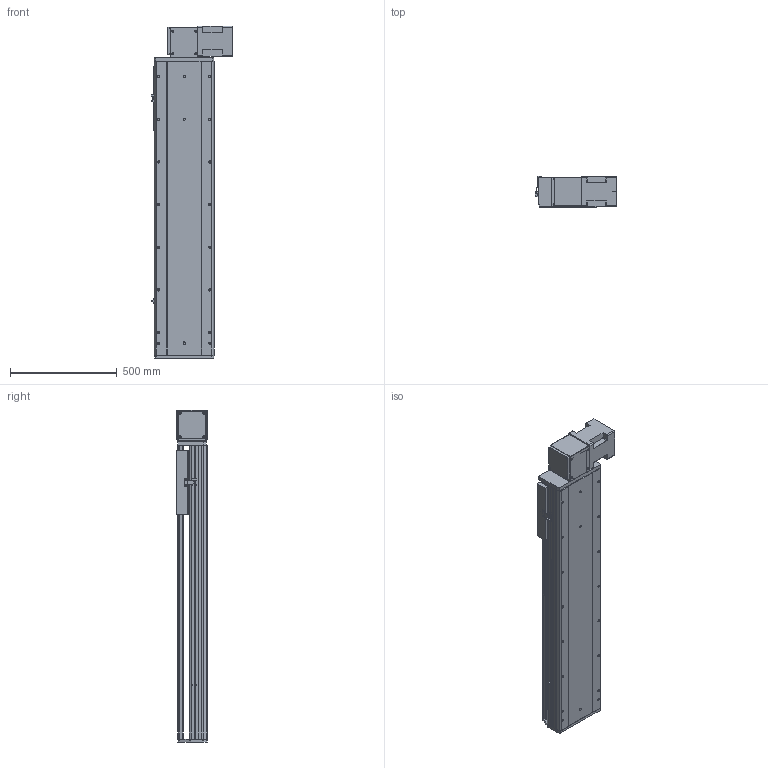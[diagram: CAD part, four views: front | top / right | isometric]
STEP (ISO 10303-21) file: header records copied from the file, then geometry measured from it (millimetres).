
FILE_DESCRIPTION (( 'STEP AP214' ), '1' );
FILE_NAME ('RTB28S-XX-950-BL-M100-XX-C4.STEP', '2025-12-22T02:19:21', ( '' ), ( '' ), 'SwSTEP 2.0', 'SolidWorks 2018', '' );
FILE_SCHEMA (( 'AUTOMOTIVE_DESIGN' ));
Length unit declared in the file: millimetre
Products named in the file (4): RTB28S-GY-004^RTB28S-XX-XX-BL-M100-XX-C4; RTB28S-GY-011^RTB28S-XX-XX-BL-M100-XX-C4; RTB28S-XX-950-BL-M100-XX-C4; RTB28S-GY-008^RTB28S-XX-XX-BL-M100-XX-C4
Assembly tree (3 placements, depth 2):
  RTB28S-XX-950-BL-M100-XX-C4
    RTB28S-GY-011^RTB28S-XX-XX-BL-M100-XX-C4
    RTB28S-GY-004^RTB28S-XX-XX-BL-M100-XX-C4
    RTB28S-GY-008^RTB28S-XX-XX-BL-M100-XX-C4
Bounding box: 380.7 x 145 x 1557 mm (x, y, z)
Volume: 28819846.1 mm3; surface area: 2791923.8 mm2
Topology: 3 solids, 4 shells, 788 faces, 2088 edges, 1328 vertices
Faces by surface type: cylinder 359, plane 345, cone 80, torus 4
Entity records: 29513 total; most frequent: CARTESIAN_POINT 5002, DIRECTION 4422, ORIENTED_EDGE 4112, EDGE_CURVE 2056, AXIS2_PLACEMENT_3D 1596, VERTEX_POINT 1328, VECTOR 1230, LINE 1230
